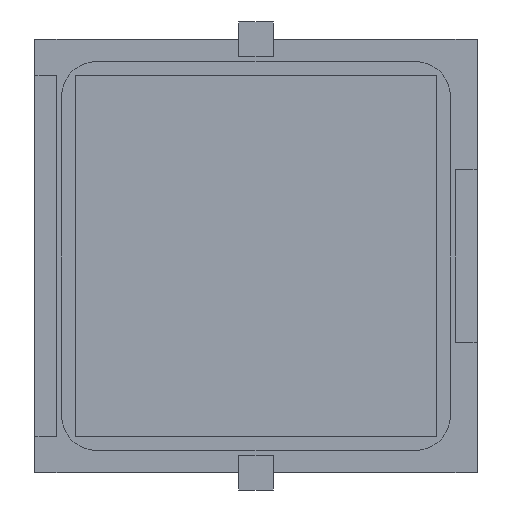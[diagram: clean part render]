
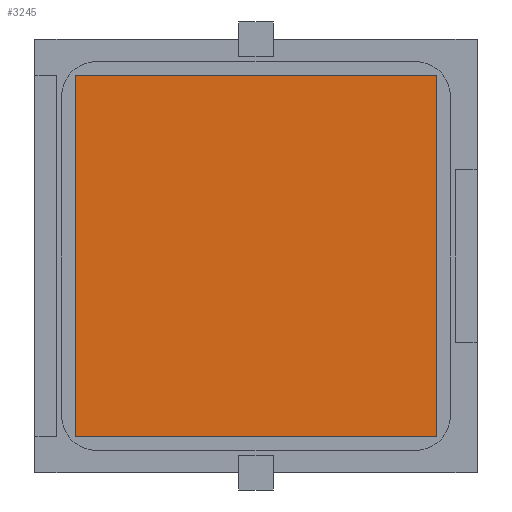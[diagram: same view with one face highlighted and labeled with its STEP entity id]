
A CAD part, front view. The second image highlights one B-rep face of the part: STEP entity #3245.
In plain terms, the highlighted planar face has unit normal (0, -1, 0).
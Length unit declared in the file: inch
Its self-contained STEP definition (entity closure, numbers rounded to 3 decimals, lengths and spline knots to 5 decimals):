
#180 = DIRECTION ( 'NONE',  ( 0., 0., -1. ) ) ;
#185 = VERTEX_POINT ( 'NONE', #837 ) ;
#238 = AXIS2_PLACEMENT_3D ( 'NONE', #3502, #1008, #5767 ) ;
#276 = VERTEX_POINT ( 'NONE', #770 ) ;
#770 = CARTESIAN_POINT ( 'NONE',  ( -0.41339, -0.005, 0.41339 ) ) ;
#837 = CARTESIAN_POINT ( 'NONE',  ( -0.41339, -0.005, -0.41339 ) ) ;
#895 = ORIENTED_EDGE ( 'NONE', *, *, #1934, .F. ) ;
#1008 = DIRECTION ( 'NONE',  ( 0., 1., 0. ) ) ;
#1042 = EDGE_CURVE ( 'NONE', #3949, #2681, #4000, .T. ) ;
#1047 = ORIENTED_EDGE ( 'NONE', *, *, #1042, .F. ) ;
#1140 = DIRECTION ( 'NONE',  ( 0., 0., 1. ) ) ;
#1337 = EDGE_CURVE ( 'NONE', #276, #3949, #5261, .T. ) ;
#1391 = EDGE_CURVE ( 'NONE', #2681, #185, #1794, .T. ) ;
#1794 = LINE ( 'NONE', #4712, #5028 ) ;
#1827 = ORIENTED_EDGE ( 'NONE', *, *, #1391, .F. ) ;
#1934 = EDGE_CURVE ( 'NONE', #185, #276, #3533, .T. ) ;
#2035 = CARTESIAN_POINT ( 'NONE',  ( -0.41339, -0.005, -0.41339 ) ) ;
#2036 = EDGE_LOOP ( 'NONE', ( #895, #1827, #1047, #3802 ) ) ;
#2089 = DIRECTION ( 'NONE',  ( 1., 0., 0. ) ) ;
#2559 = VECTOR ( 'NONE', #2089, 39.37008 ) ;
#2675 = DIRECTION ( 'NONE',  ( -1., 0., 0. ) ) ;
#2681 = VERTEX_POINT ( 'NONE', #4378 ) ;
#2968 = VECTOR ( 'NONE', #180, 39.37008 ) ;
#3245 = ADVANCED_FACE ( 'NONE', ( #4798 ), #4390, .F. ) ;
#3502 = CARTESIAN_POINT ( 'NONE',  ( -0.41339, -0.005, 0.41339 ) ) ;
#3533 = LINE ( 'NONE', #2035, #5843 ) ;
#3802 = ORIENTED_EDGE ( 'NONE', *, *, #1337, .F. ) ;
#3949 = VERTEX_POINT ( 'NONE', #4420 ) ;
#4000 = LINE ( 'NONE', #4558, #2968 ) ;
#4378 = CARTESIAN_POINT ( 'NONE',  ( 0.41339, -0.005, -0.41339 ) ) ;
#4390 = PLANE ( 'NONE',  #238 ) ;
#4420 = CARTESIAN_POINT ( 'NONE',  ( 0.41339, -0.005, 0.41339 ) ) ;
#4435 = CARTESIAN_POINT ( 'NONE',  ( -0.41339, -0.005, 0.41339 ) ) ;
#4558 = CARTESIAN_POINT ( 'NONE',  ( 0.41339, -0.005, -0.41339 ) ) ;
#4712 = CARTESIAN_POINT ( 'NONE',  ( -0.41339, -0.005, -0.41339 ) ) ;
#4798 = FACE_OUTER_BOUND ( 'NONE', #2036, .T. ) ;
#5028 = VECTOR ( 'NONE', #2675, 39.37008 ) ;
#5261 = LINE ( 'NONE', #4435, #2559 ) ;
#5767 = DIRECTION ( 'NONE',  ( 0., 0., 1. ) ) ;
#5843 = VECTOR ( 'NONE', #1140, 39.37008 ) ;
